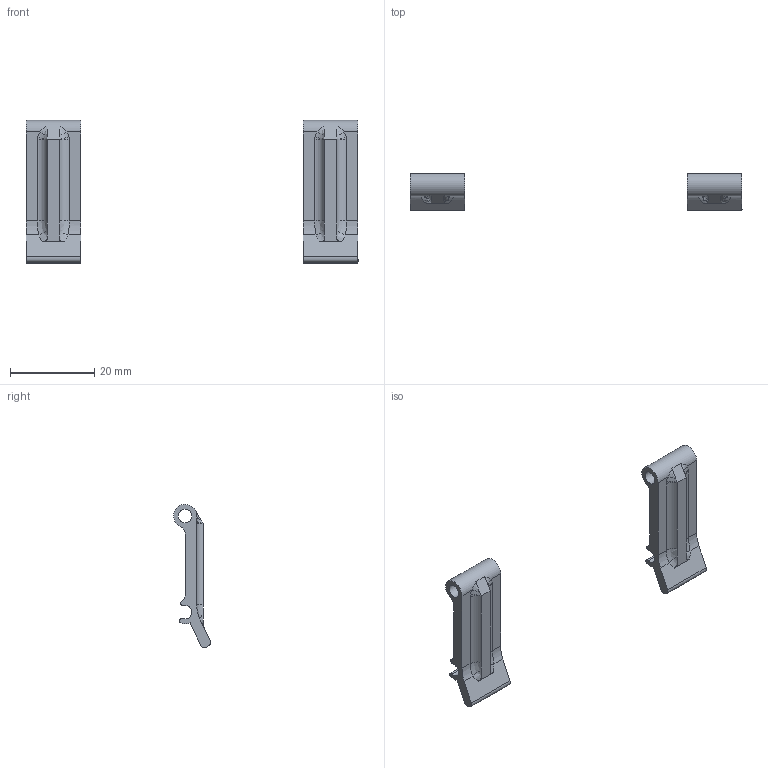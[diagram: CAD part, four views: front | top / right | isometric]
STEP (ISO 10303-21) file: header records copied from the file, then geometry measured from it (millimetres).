
FILE_DESCRIPTION(/* description */ (''),/* implementation_level */ '2;1');
FILE_NAME(/* name */ 'Clips.step',/* time_stamp */ '2024-05-02T09:14:21+08:00',/* author */ (''),/* organization */ (''),/* preprocessor_version */ 'ST-DEVELOPER v20',/* originating_system */ 'Autodesk Translation Framework v12.20.1.177',/* authorisation */ '');
FILE_SCHEMA (('AUTOMOTIVE_DESIGN { 1 0 10303 214 3 1 1 }'));
Length unit declared in the file: millimetre
Products named in the file (2): Clips; ClipM3 v1(镜像)
Assembly tree (1 placements, depth 2):
  Clips
    ClipM3 v1(镜像)
Bounding box: 79 x 8.75 x 34.06 mm (x, y, z)
Volume: 2802.6 mm3; surface area: 2825.8 mm2
Topology: 2 solids, 2 shells, 76 faces, 208 edges, 128 vertices
Faces by surface type: cylinder 32, plane 24, bspline 20
Full cylindrical faces by diameter (mm): 3.2 x2
Entity records: 2822 total; most frequent: CARTESIAN_POINT 921, ORIENTED_EDGE 400, DIRECTION 374, EDGE_CURVE 200, AXIS2_PLACEMENT_3D 135, VERTEX_POINT 128, LINE 104, VECTOR 104
